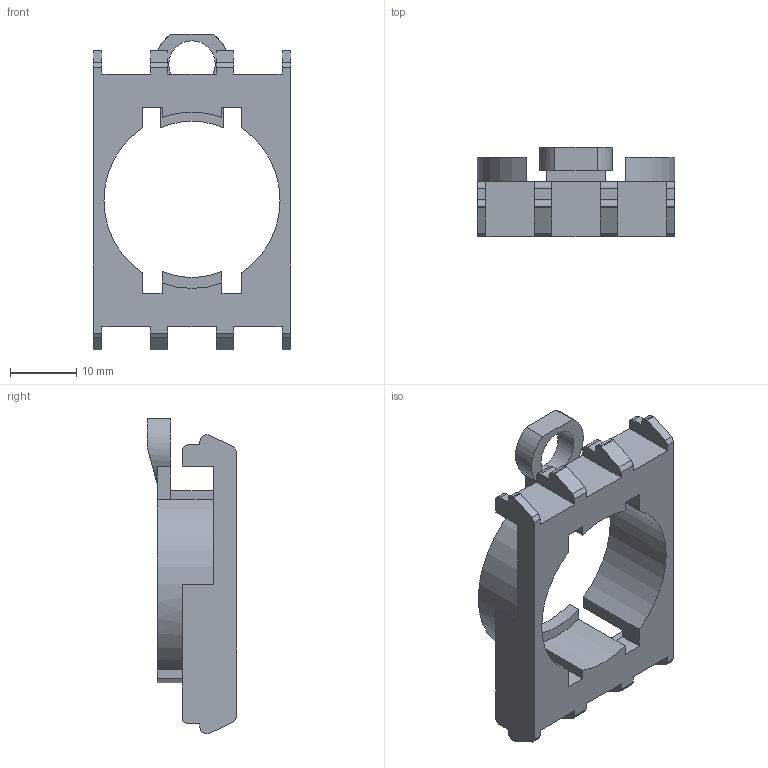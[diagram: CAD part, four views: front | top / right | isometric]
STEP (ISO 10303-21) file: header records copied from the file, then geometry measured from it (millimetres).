
FILE_DESCRIPTION (( 'STEP AP203' ), '1' );
FILE_NAME ('B3S Kuppelstück.STEP', '2012-12-11T06:48:27', ( 'edv' ), ( '' ), 'SwSTEP 2.0', 'SolidWorks 2013', '' );
FILE_SCHEMA (( 'CONFIG_CONTROL_DESIGN' ));
Length unit declared in the file: millimetre
Products named in the file (1): B3S Kuppelstück
Bounding box: 29.7 x 13.4 x 47.5 mm (x, y, z)
Volume: 3956.7 mm3; surface area: 4837.4 mm2
Topology: 1 solids, 1 shells, 124 faces, 368 edges, 245 vertices
Faces by surface type: plane 93, cylinder 31
Entity records: 4217 total; most frequent: CARTESIAN_POINT 750, ORIENTED_EDGE 736, DIRECTION 682, EDGE_CURVE 368, LINE 296, VECTOR 296, VERTEX_POINT 245, AXIS2_PLACEMENT_3D 193
